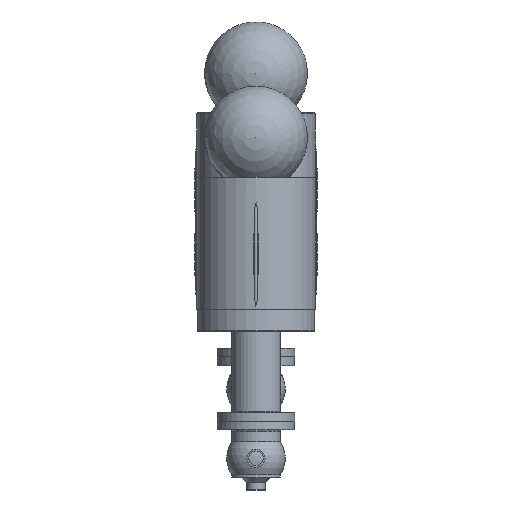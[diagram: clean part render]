
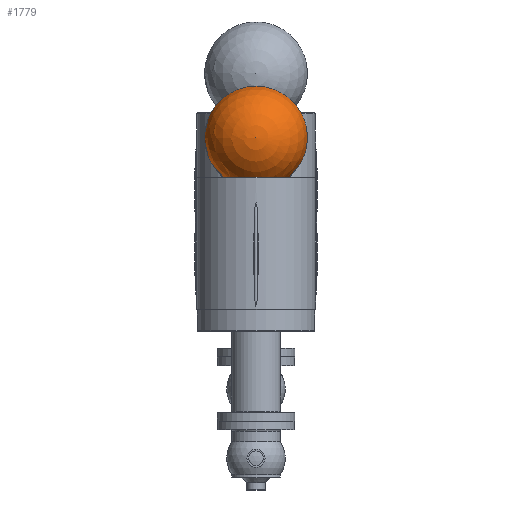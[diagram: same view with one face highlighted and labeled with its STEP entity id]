
A CAD part, front view. The second image highlights one B-rep face of the part: STEP entity #1779.
In plain terms, the highlighted spherical face has radius 72.5 mm.
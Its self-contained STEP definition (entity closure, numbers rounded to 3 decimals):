
#210=SPHERICAL_SURFACE('',#2154,72.5);
#234=FACE_BOUND('',#474,.T.);
#348=FACE_OUTER_BOUND('',#473,.T.);
#473=EDGE_LOOP('',(#1524,#1525));
#474=EDGE_LOOP('',(#1526));
#716=CIRCLE('',#2155,72.5);
#717=CIRCLE('',#2156,46.648);
#897=VERTEX_POINT('',#3611);
#898=VERTEX_POINT('',#3612);
#899=VERTEX_POINT('',#3614);
#1118=EDGE_CURVE('',#897,#898,#716,.T.);
#1119=EDGE_CURVE('',#899,#899,#717,.T.);
#1524=ORIENTED_EDGE('',*,*,#1118,.T.);
#1525=ORIENTED_EDGE('',*,*,#1118,.F.);
#1526=ORIENTED_EDGE('',*,*,#1119,.F.);
#1779=ADVANCED_FACE('',(#348,#234),#210,.T.);
#2154=AXIS2_PLACEMENT_3D('',#3610,#2678,#2679);
#2155=AXIS2_PLACEMENT_3D('',#3613,#2680,#2681);
#2156=AXIS2_PLACEMENT_3D('',#3615,#2682,#2683);
#2678=DIRECTION('center_axis',(0.,0.,1.));
#2679=DIRECTION('ref_axis',(1.,0.,0.));
#2680=DIRECTION('center_axis',(0.,-1.,0.));
#2681=DIRECTION('ref_axis',(-1.,0.,0.));
#2682=DIRECTION('center_axis',(0.,-1.,0.));
#2683=DIRECTION('ref_axis',(1.,0.,0.));
#3610=CARTESIAN_POINT('Origin',(150.,266.5,0.));
#3611=CARTESIAN_POINT('',(150.,266.5,72.5));
#3612=CARTESIAN_POINT('',(150.,266.5,-72.5));
#3613=CARTESIAN_POINT('Origin',(150.,266.5,0.));
#3614=CARTESIAN_POINT('',(196.648,211.,0.));
#3615=CARTESIAN_POINT('Origin',(150.,211.,0.));
